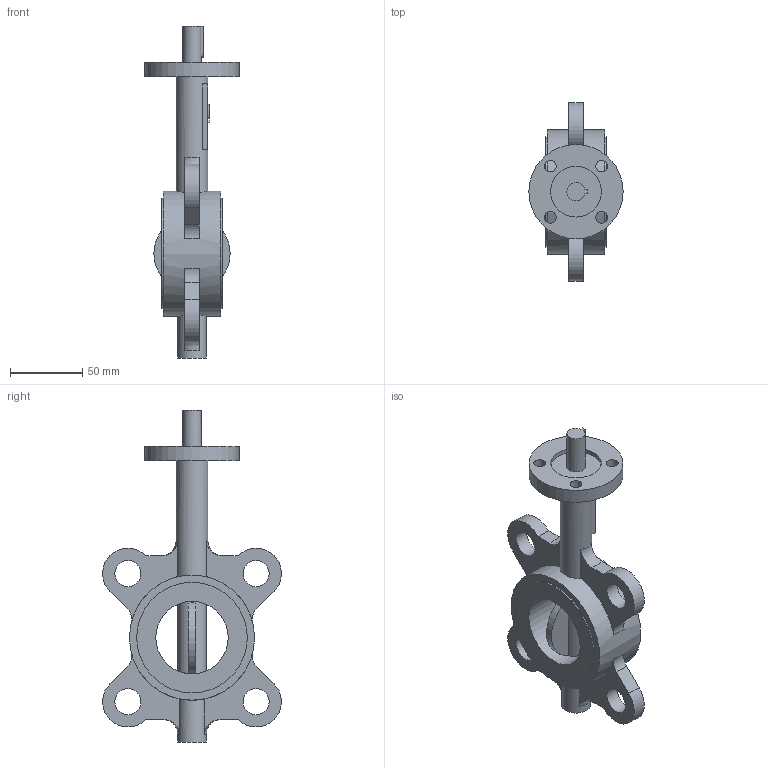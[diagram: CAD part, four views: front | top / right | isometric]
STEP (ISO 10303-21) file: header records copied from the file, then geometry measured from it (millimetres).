
FILE_DESCRIPTION(('STEP AP203'), '1');
FILE_NAME('青蜮铕 017W.Y_DN50_PN10_PN16', '', ('UNSPECIFIED'), ('UNSPECIFIED'), 'ASCON STEP Converter 1.6', 'ASCON Math Kernel', '');
FILE_SCHEMA(('CONFIG_CONTROL_DESIGN'));
Length unit declared in the file: millimetre
Bounding box: 65 x 123.26 x 229 mm (x, y, z)
Volume: 301461.2 mm3; surface area: 61666.9 mm2
Topology: 1 solids, 1 shells, 89 faces, 220 edges, 146 vertices
Faces by surface type: plane 48, cylinder 37, torus 4
Full cylindrical faces by diameter (mm): 8 x4, 12.6 x1, 18 x4, 20 x2, 22 x1, 35 x1, 50 x1, 65 x1, 76.3 x2, 86.3 x1
Entity records: 4501 total; most frequent: CARTESIAN_POINT 1609, DIRECTION 452, ORIENTED_EDGE 404, EDGE_CURVE 202, AXIS2_PLACEMENT_3D 180, VERTEX_POINT 146, EDGE_LOOP 140, FACE_BOUND 107
